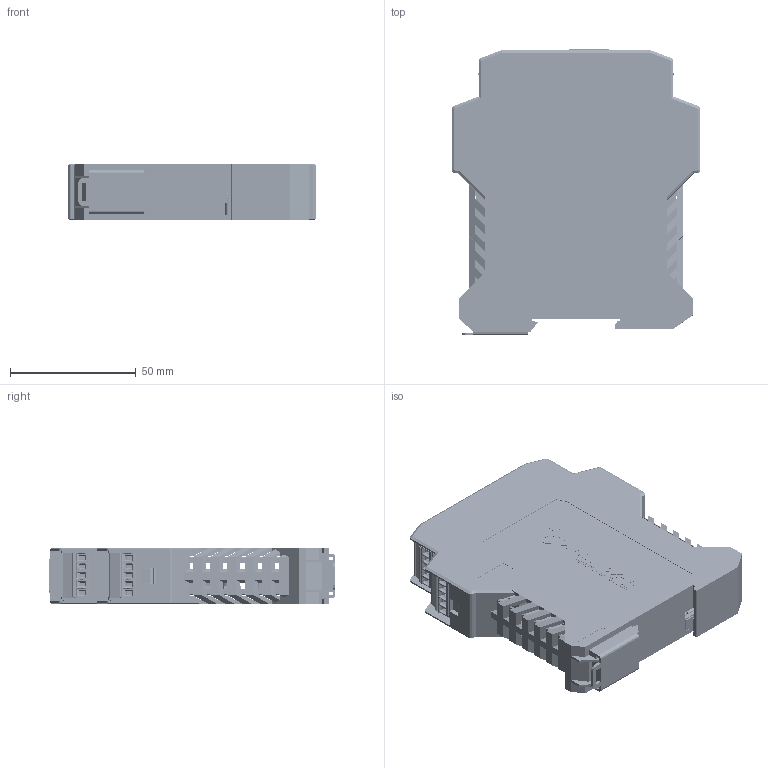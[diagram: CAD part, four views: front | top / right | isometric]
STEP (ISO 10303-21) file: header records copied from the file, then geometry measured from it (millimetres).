
FILE_DESCRIPTION(('STEP AP214'),'1');
FILE_NAME('ED-560 Cased 3D Step.step','2020-12-17T13:21:47',(' '),(' '),'Spatial InterOp 3D','XD3DPlugin XRACreate',' ');
FILE_SCHEMA(('automotive_design'));
Length unit declared in the file: millimetre
Products named in the file (48): Submodel-Input_S\82HEA3MM5TBX5_R_GREY_0.xtd; 82HEA3MM5TBX5_R_GREY_0; Submodel-82HEA3MM5TBX5_R_YELLOW_part_simplified_TBX5_RIGHT; DesignRootModel; Submodel-Input_S\82HEA3MM5TBX5_L_BLACK.xtd; 82HEA3MM5TBX5_L_BLACK; Submodel-82HEA3MM5TBX5_L_BLACK_part_simplified_TBX5_LEFT; Submodel-Input_S\10NTA0315MC.xtd; 10NTA0315MC; Submodel-10NTA0315MC_part_simplified_NTA_MC10; Submodel-Input_S\SMD_ELEC_D.xtd; SMD_ELEC_D; Submodel-7547UF50V_part_simplified_SMD_ELEC_D; Submodel-Input_S\10NKE0303SC.xtd; 10NKE0303SC; Submodel-10NKE0303SC_part_simplified_SIP4; Submodel-Input_S\00MAGJACKILED.xtd; 00MAGJACKILED; Submodel-00MAGJACKILED_part_simplified_MAGJACK_LEDS; Submodel-Input_S\6610UH5A5.xtd; 6610UH5A5; Submodel-6610UH5A5_part_simplified_SRR1260; Submodel-Input_S\LEDX2BLOCK_RESET_0.xtd; LEDX2BLOCK_RESET_0; Submodel-55LEDX2REDGREEN_part_simplified_LEDX2BLOCK; Submodel-Input_S\40SMTBUTTON_0.xtd; 40SMTBUTTON_0; Submodel-40SMTBUTTON_part_simplified_SMTBUTTON; Submodel-Input_S\SMC.xtd; SMC; Submodel-55TZ1K5SMC36V_part_simplified_SMC; Submodel-Input_S\50HEA4X2.xtd; 50HEA4X2; Submodel-50HEA4X2_part_simplified_H100MIL2X4; uid__9223372036854788800; Submodel-AssyDefn_11; BrainboxesLogo.step; Submodel-AssyDefn_10; EDCase2Way.sat; Submodel-AssyDefn_9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
Assembly tree (55 placements, depth 5):
  ED-560 Cased 3D Step
    DesignRootModel
      Submodel-82HEA3MM5TBX5_R_YELLOW_part_simplified_TBX5_RIGHT  x2
        Submodel-Input_S\82HEA3MM5TBX5_R_GREY_0.xtd
          82HEA3MM5TBX5_R_GREY_0
      Submodel-82HEA3MM5TBX5_L_BLACK_part_simplified_TBX5_LEFT  x2
        Submodel-Input_S\82HEA3MM5TBX5_L_BLACK.xtd
          82HEA3MM5TBX5_L_BLACK
      Submodel-10NTA0315MC_part_simplified_NTA_MC10
        Submodel-Input_S\10NTA0315MC.xtd
          10NTA0315MC
      Submodel-7547UF50V_part_simplified_SMD_ELEC_D
        Submodel-Input_S\SMD_ELEC_D.xtd
          SMD_ELEC_D
      Submodel-10NKE0303SC_part_simplified_SIP4
        Submodel-Input_S\10NKE0303SC.xtd
          10NKE0303SC
      Submodel-00MAGJACKILED_part_simplified_MAGJACK_LEDS
        Submodel-Input_S\00MAGJACKILED.xtd
          00MAGJACKILED
      Submodel-6610UH5A5_part_simplified_SRR1260
        Submodel-Input_S\6610UH5A5.xtd
          6610UH5A5
      Submodel-55LEDX2REDGREEN_part_simplified_LEDX2BLOCK
        Submodel-Input_S\LEDX2BLOCK_RESET_0.xtd
          LEDX2BLOCK_RESET_0
      Submodel-40SMTBUTTON_part_simplified_SMTBUTTON
        Submodel-Input_S\40SMTBUTTON_0.xtd
          40SMTBUTTON_0
      Submodel-55TZ1K5SMC36V_part_simplified_SMC  x3
        Submodel-Input_S\SMC.xtd
          SMC
      Submodel-50HEA4X2_part_simplified_H100MIL2X4
        Submodel-Input_S\50HEA4X2.xtd
          50HEA4X2
      uid__9223372036854788800
      Submodel-AssyDefn_11  x2
        BrainboxesLogo.step
      Submodel-AssyDefn_10
        EDCase2Way.sat
      Submodel-AssyDefn_9  x4
        82PLUG3MM5_X5_1_5_BLCK.sat
      Submodel-DATUM_2441444698_part_DATUM
        Submodel-noModelForPart_DATUM_2441444698
          placementOutline
      Submodel-CHASSISPINS_1097425168_part_CHASSISPINS
        Submodel-noModelForPart_CHASSISPINS_1097425168
          placementOutline
Bounding box: 99 x 114.2 x 22.6 mm (x, y, z)
Volume: 98588.6 mm3; surface area: 130123.2 mm2
Topology: 302 solids, 302 shells, 15612 faces, 42022 edges, 27369 vertices
Faces by surface type: plane 11437, cylinder 2999, bspline 686, torus 236, cone 225, sphere 29
Full cylindrical faces by diameter (mm): 0.6 x2, 1 x1, 3 x1, 3.81 x1
Entity records: 463769 total; most frequent: CARTESIAN_POINT 79345, ORIENTED_EDGE 61394, DIRECTION 57544, EDGE_CURVE 30697, LINE 24500, VECTOR 24500, VERTEX_POINT 19939, AXIS2_PLACEMENT_3D 16522
